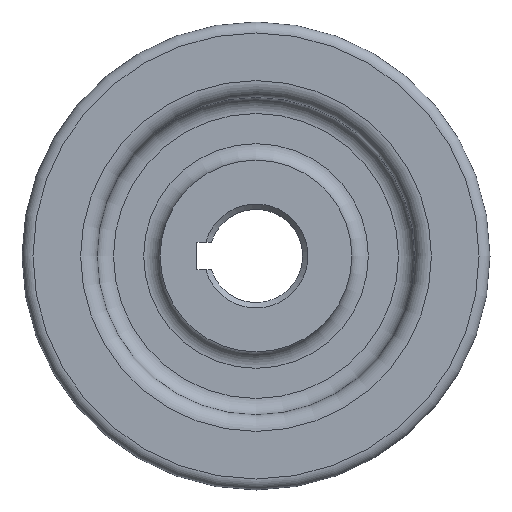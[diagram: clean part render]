
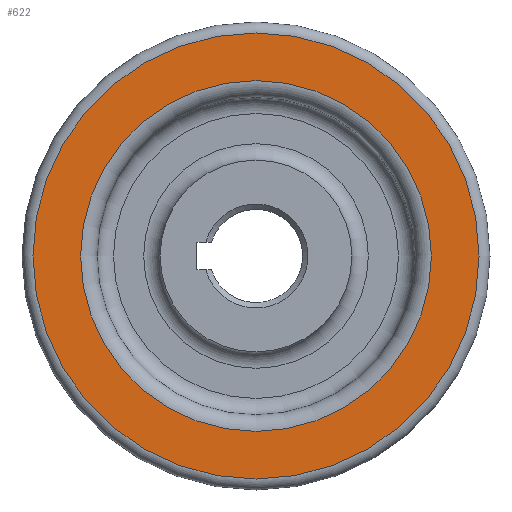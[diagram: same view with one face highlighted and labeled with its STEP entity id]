
A CAD part, left-side view. The second image highlights one B-rep face of the part: STEP entity #622.
In plain terms, the highlighted planar face has unit normal (-1, 0, 0).
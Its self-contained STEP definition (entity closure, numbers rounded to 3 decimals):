
#41=FACE_BOUND('',#184,.T.);
#102=CIRCLE('',#732,40.7);
#103=CIRCLE('',#733,40.7);
#105=CIRCLE('',#736,32.);
#106=CIRCLE('',#737,32.);
#148=FACE_OUTER_BOUND('',#183,.T.);
#183=EDGE_LOOP('',(#554,#555));
#184=EDGE_LOOP('',(#556,#557));
#284=VERTEX_POINT('',#1160);
#285=VERTEX_POINT('',#1161);
#286=VERTEX_POINT('',#1166);
#287=VERTEX_POINT('',#1167);
#376=EDGE_CURVE('',#284,#285,#102,.T.);
#377=EDGE_CURVE('',#285,#284,#103,.T.);
#379=EDGE_CURVE('',#286,#287,#105,.T.);
#380=EDGE_CURVE('',#287,#286,#106,.T.);
#554=ORIENTED_EDGE('',*,*,#376,.T.);
#555=ORIENTED_EDGE('',*,*,#377,.T.);
#556=ORIENTED_EDGE('',*,*,#379,.F.);
#557=ORIENTED_EDGE('',*,*,#380,.F.);
#595=PLANE('',#735);
#622=ADVANCED_FACE('',(#148,#41),#595,.T.);
#732=AXIS2_PLACEMENT_3D('',#1162,#941,#942);
#733=AXIS2_PLACEMENT_3D('',#1163,#943,#944);
#735=AXIS2_PLACEMENT_3D('',#1165,#947,#948);
#736=AXIS2_PLACEMENT_3D('',#1168,#949,#950);
#737=AXIS2_PLACEMENT_3D('',#1169,#951,#952);
#941=DIRECTION('center_axis',(-1.,0.,0.));
#942=DIRECTION('ref_axis',(0.,0.,1.));
#943=DIRECTION('center_axis',(-1.,0.,0.));
#944=DIRECTION('ref_axis',(0.,0.,1.));
#947=DIRECTION('center_axis',(-1.,0.,0.));
#948=DIRECTION('ref_axis',(0.,0.,1.));
#949=DIRECTION('center_axis',(-1.,0.,0.));
#950=DIRECTION('ref_axis',(0.,0.,1.));
#951=DIRECTION('center_axis',(-1.,0.,0.));
#952=DIRECTION('ref_axis',(0.,0.,1.));
#1160=CARTESIAN_POINT('',(0.,-40.7,0.));
#1161=CARTESIAN_POINT('',(0.,0.,-40.7));
#1162=CARTESIAN_POINT('Origin',(0.,0.,0.));
#1163=CARTESIAN_POINT('Origin',(0.,0.,0.));
#1165=CARTESIAN_POINT('Origin',(0.,-32.,0.));
#1166=CARTESIAN_POINT('',(0.,-32.,0.));
#1167=CARTESIAN_POINT('',(0.,0.,-32.));
#1168=CARTESIAN_POINT('Origin',(0.,0.,0.));
#1169=CARTESIAN_POINT('Origin',(0.,0.,0.));
